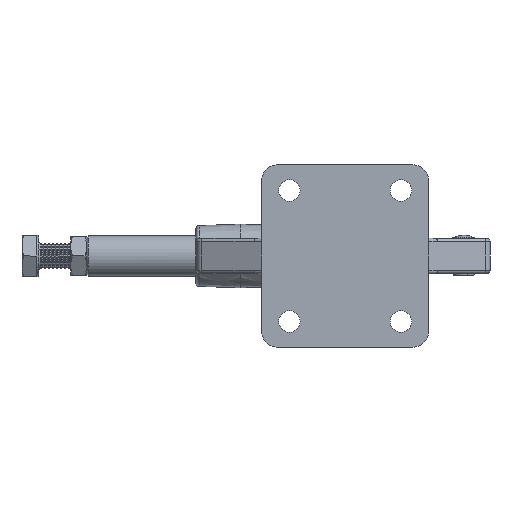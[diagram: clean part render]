
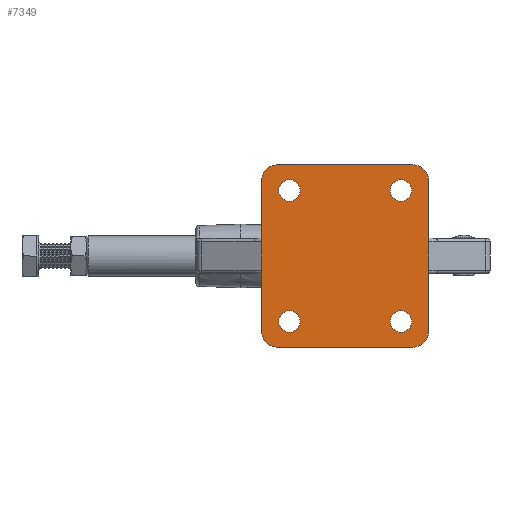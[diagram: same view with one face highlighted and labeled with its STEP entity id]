
A CAD part, front view. The second image highlights one B-rep face of the part: STEP entity #7349.
In plain terms, the highlighted planar face has unit normal (0, -1, 0).
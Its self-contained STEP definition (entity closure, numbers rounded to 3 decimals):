
#103 = CARTESIAN_POINT ( 'NONE',  ( -21.2, 0., 23.6 ) ) ;
#169 = VERTEX_POINT ( 'NONE', #1931 ) ;
#172 = VECTOR ( 'NONE', #12748, 1000. ) ;
#177 = CARTESIAN_POINT ( 'NONE',  ( -26.2, 0., -23.6 ) ) ;
#204 = EDGE_CURVE ( 'NONE', #13492, #169, #2620, .T. ) ;
#313 = DIRECTION ( 'NONE',  ( 0., -1., 0. ) ) ;
#327 = VERTEX_POINT ( 'NONE', #8480 ) ;
#432 = ORIENTED_EDGE ( 'NONE', *, *, #6483, .T. ) ;
#433 = CIRCLE ( 'NONE', #10088, 3.35 ) ;
#436 = AXIS2_PLACEMENT_3D ( 'NONE', #103, #7665, #1195 ) ;
#513 = LINE ( 'NONE', #11619, #172 ) ;
#563 = DIRECTION ( 'NONE',  ( 0., 0., -1. ) ) ;
#729 = FACE_OUTER_BOUND ( 'NONE', #9402, .T. ) ;
#902 = EDGE_CURVE ( 'NONE', #169, #13492, #12440, .T. ) ;
#909 = DIRECTION ( 'NONE',  ( 0., 1., 0. ) ) ;
#1195 = DIRECTION ( 'NONE',  ( 0., 0., -1. ) ) ;
#1232 = LINE ( 'NONE', #9711, #6635 ) ;
#1305 = EDGE_CURVE ( 'NONE', #1662, #2187, #4481, .T. ) ;
#1412 = CARTESIAN_POINT ( 'NONE',  ( 17.5, 0., 20.55 ) ) ;
#1451 = VERTEX_POINT ( 'NONE', #177 ) ;
#1476 = VERTEX_POINT ( 'NONE', #10858 ) ;
#1478 = ORIENTED_EDGE ( 'NONE', *, *, #6307, .T. ) ;
#1527 = CARTESIAN_POINT ( 'NONE',  ( 21.2, 0., 28.6 ) ) ;
#1587 = DIRECTION ( 'NONE',  ( 0., 1., 0. ) ) ;
#1662 = VERTEX_POINT ( 'NONE', #6540 ) ;
#1924 = VERTEX_POINT ( 'NONE', #3003 ) ;
#1931 = CARTESIAN_POINT ( 'NONE',  ( -17.5, 0., -23.9 ) ) ;
#1946 = EDGE_CURVE ( 'NONE', #1662, #12133, #3441, .T. ) ;
#2187 = VERTEX_POINT ( 'NONE', #6921 ) ;
#2595 = EDGE_CURVE ( 'NONE', #327, #12133, #1232, .T. ) ;
#2620 = CIRCLE ( 'NONE', #13246, 3.35 ) ;
#2673 = EDGE_LOOP ( 'NONE', ( #12189, #10298 ) ) ;
#2828 = VERTEX_POINT ( 'NONE', #8777 ) ;
#2947 = EDGE_LOOP ( 'NONE', ( #11931, #10730 ) ) ;
#2959 = AXIS2_PLACEMENT_3D ( 'NONE', #8070, #1587, #9180 ) ;
#3003 = CARTESIAN_POINT ( 'NONE',  ( -17.5, 0., 23.9 ) ) ;
#3010 = DIRECTION ( 'NONE',  ( 0., 1., 0. ) ) ;
#3034 = VERTEX_POINT ( 'NONE', #6234 ) ;
#3041 = CARTESIAN_POINT ( 'NONE',  ( -17.5, 0., -20.55 ) ) ;
#3116 = AXIS2_PLACEMENT_3D ( 'NONE', #5462, #6067, #5307 ) ;
#3267 = FACE_BOUND ( 'NONE', #2947, .T. ) ;
#3281 = DIRECTION ( 'NONE',  ( 0., 0., 1. ) ) ;
#3327 = AXIS2_PLACEMENT_3D ( 'NONE', #6774, #313, #7854 ) ;
#3342 = VERTEX_POINT ( 'NONE', #8143 ) ;
#3371 = ORIENTED_EDGE ( 'NONE', *, *, #9801, .F. ) ;
#3441 = CIRCLE ( 'NONE', #7082, 5. ) ;
#3580 = DIRECTION ( 'NONE',  ( 0., 1., 0. ) ) ;
#3615 = AXIS2_PLACEMENT_3D ( 'NONE', #6208, #13803, #7295 ) ;
#3671 = AXIS2_PLACEMENT_3D ( 'NONE', #13940, #11923, #8599 ) ;
#3739 = CIRCLE ( 'NONE', #7135, 3.35 ) ;
#3819 = CIRCLE ( 'NONE', #7623, 5. ) ;
#3829 = DIRECTION ( 'NONE',  ( 0., 0., -1. ) ) ;
#3931 = CARTESIAN_POINT ( 'NONE',  ( 26.2, 0., -23.6 ) ) ;
#4100 = DIRECTION ( 'NONE',  ( 0., 0., 1. ) ) ;
#4276 = PLANE ( 'NONE',  #3671 ) ;
#4481 = LINE ( 'NONE', #6829, #5144 ) ;
#4605 = LINE ( 'NONE', #12987, #10009 ) ;
#4642 = CIRCLE ( 'NONE', #11358, 3.35 ) ;
#4719 = EDGE_CURVE ( 'NONE', #1924, #8225, #3739, .T. ) ;
#4773 = EDGE_LOOP ( 'NONE', ( #1478, #10422 ) ) ;
#5113 = CIRCLE ( 'NONE', #2959, 3.35 ) ;
#5144 = VECTOR ( 'NONE', #10526, 1000. ) ;
#5307 = DIRECTION ( 'NONE',  ( 0., 0., 1. ) ) ;
#5462 = CARTESIAN_POINT ( 'NONE',  ( -17.5, 0., -20.55 ) ) ;
#5773 = AXIS2_PLACEMENT_3D ( 'NONE', #7382, #909, #8509 ) ;
#6067 = DIRECTION ( 'NONE',  ( 0., 1., 0. ) ) ;
#6141 = FACE_BOUND ( 'NONE', #13007, .T. ) ;
#6208 = CARTESIAN_POINT ( 'NONE',  ( -17.5, 0., 20.55 ) ) ;
#6234 = CARTESIAN_POINT ( 'NONE',  ( 17.5, 0., 17.2 ) ) ;
#6247 = CARTESIAN_POINT ( 'NONE',  ( 17.5, 0., 23.9 ) ) ;
#6307 = EDGE_CURVE ( 'NONE', #3342, #2828, #433, .T. ) ;
#6386 = CIRCLE ( 'NONE', #436, 5. ) ;
#6450 = CARTESIAN_POINT ( 'NONE',  ( 21.2, 0., -23.6 ) ) ;
#6474 = CARTESIAN_POINT ( 'NONE',  ( -17.5, 0., 20.55 ) ) ;
#6476 = CARTESIAN_POINT ( 'NONE',  ( -21.2, 0., -23.6 ) ) ;
#6483 = EDGE_CURVE ( 'NONE', #1451, #2187, #3819, .T. ) ;
#6540 = CARTESIAN_POINT ( 'NONE',  ( 21.2, 0., -28.6 ) ) ;
#6635 = VECTOR ( 'NONE', #563, 1000. ) ;
#6774 = CARTESIAN_POINT ( 'NONE',  ( 21.2, 0., 23.6 ) ) ;
#6828 = ORIENTED_EDGE ( 'NONE', *, *, #902, .T. ) ;
#6829 = CARTESIAN_POINT ( 'NONE',  ( -26.2, 0., -28.6 ) ) ;
#6921 = CARTESIAN_POINT ( 'NONE',  ( -21.2, 0., -28.6 ) ) ;
#7082 = AXIS2_PLACEMENT_3D ( 'NONE', #6450, #8153, #7782 ) ;
#7135 = AXIS2_PLACEMENT_3D ( 'NONE', #6474, #13677, #10935 ) ;
#7290 = VERTEX_POINT ( 'NONE', #8691 ) ;
#7295 = DIRECTION ( 'NONE',  ( 0., 0., -1. ) ) ;
#7349 = ADVANCED_FACE ( 'NONE', ( #9701, #6141, #729, #11896, #3267 ), #4276, .T. ) ;
#7382 = CARTESIAN_POINT ( 'NONE',  ( 17.5, 0., 20.55 ) ) ;
#7607 = VERTEX_POINT ( 'NONE', #6247 ) ;
#7623 = AXIS2_PLACEMENT_3D ( 'NONE', #6476, #9321, #8005 ) ;
#7665 = DIRECTION ( 'NONE',  ( 0., -1., 0. ) ) ;
#7759 = EDGE_CURVE ( 'NONE', #7607, #3034, #4642, .T. ) ;
#7782 = DIRECTION ( 'NONE',  ( 0., 0., -1. ) ) ;
#7786 = ORIENTED_EDGE ( 'NONE', *, *, #2595, .F. ) ;
#7842 = CARTESIAN_POINT ( 'NONE',  ( -17.5, 0., -17.2 ) ) ;
#7854 = DIRECTION ( 'NONE',  ( 0., 0., -1. ) ) ;
#8005 = DIRECTION ( 'NONE',  ( 0., 0., -1. ) ) ;
#8070 = CARTESIAN_POINT ( 'NONE',  ( 17.5, 0., -20.55 ) ) ;
#8133 = ORIENTED_EDGE ( 'NONE', *, *, #11326, .T. ) ;
#8143 = CARTESIAN_POINT ( 'NONE',  ( 17.5, 0., -23.9 ) ) ;
#8153 = DIRECTION ( 'NONE',  ( 0., -1., 0. ) ) ;
#8225 = VERTEX_POINT ( 'NONE', #9911 ) ;
#8299 = ORIENTED_EDGE ( 'NONE', *, *, #1305, .F. ) ;
#8424 = VERTEX_POINT ( 'NONE', #1527 ) ;
#8434 = DIRECTION ( 'NONE',  ( 0., 0., 1. ) ) ;
#8480 = CARTESIAN_POINT ( 'NONE',  ( 26.2, 0., 23.6 ) ) ;
#8509 = DIRECTION ( 'NONE',  ( 0., 0., -1. ) ) ;
#8599 = DIRECTION ( 'NONE',  ( 0., 0., -1. ) ) ;
#8691 = CARTESIAN_POINT ( 'NONE',  ( -26.2, 0., 23.6 ) ) ;
#8777 = CARTESIAN_POINT ( 'NONE',  ( 17.5, 0., -17.2 ) ) ;
#8913 = ORIENTED_EDGE ( 'NONE', *, *, #1946, .T. ) ;
#9019 = EDGE_CURVE ( 'NONE', #2828, #3342, #5113, .T. ) ;
#9109 = ORIENTED_EDGE ( 'NONE', *, *, #10189, .F. ) ;
#9180 = DIRECTION ( 'NONE',  ( 0., 0., 1. ) ) ;
#9321 = DIRECTION ( 'NONE',  ( 0., -1., 0. ) ) ;
#9402 = EDGE_LOOP ( 'NONE', ( #8299, #8913, #7786, #11607, #9109, #8133, #3371, #432 ) ) ;
#9510 = DIRECTION ( 'NONE',  ( 0., 1., 0. ) ) ;
#9559 = ORIENTED_EDGE ( 'NONE', *, *, #204, .T. ) ;
#9701 = FACE_BOUND ( 'NONE', #2673, .T. ) ;
#9711 = CARTESIAN_POINT ( 'NONE',  ( 26.2, 0., 28.6 ) ) ;
#9772 = CIRCLE ( 'NONE', #3327, 5. ) ;
#9801 = EDGE_CURVE ( 'NONE', #1451, #7290, #4605, .T. ) ;
#9911 = CARTESIAN_POINT ( 'NONE',  ( -17.5, 0., 17.2 ) ) ;
#10009 = VECTOR ( 'NONE', #3281, 1000. ) ;
#10088 = AXIS2_PLACEMENT_3D ( 'NONE', #10133, #3580, #4100 ) ;
#10133 = CARTESIAN_POINT ( 'NONE',  ( 17.5, 0., -20.55 ) ) ;
#10189 = EDGE_CURVE ( 'NONE', #1476, #8424, #513, .T. ) ;
#10298 = ORIENTED_EDGE ( 'NONE', *, *, #7759, .T. ) ;
#10304 = CIRCLE ( 'NONE', #5773, 3.35 ) ;
#10422 = ORIENTED_EDGE ( 'NONE', *, *, #9019, .T. ) ;
#10526 = DIRECTION ( 'NONE',  ( -1., 0., 0. ) ) ;
#10642 = CIRCLE ( 'NONE', #3615, 3.35 ) ;
#10730 = ORIENTED_EDGE ( 'NONE', *, *, #4719, .T. ) ;
#10858 = CARTESIAN_POINT ( 'NONE',  ( -21.2, 0., 28.6 ) ) ;
#10935 = DIRECTION ( 'NONE',  ( 0., 0., -1. ) ) ;
#11119 = EDGE_CURVE ( 'NONE', #8225, #1924, #10642, .T. ) ;
#11177 = EDGE_CURVE ( 'NONE', #3034, #7607, #10304, .T. ) ;
#11326 = EDGE_CURVE ( 'NONE', #1476, #7290, #6386, .T. ) ;
#11358 = AXIS2_PLACEMENT_3D ( 'NONE', #1412, #3010, #3829 ) ;
#11607 = ORIENTED_EDGE ( 'NONE', *, *, #12951, .T. ) ;
#11619 = CARTESIAN_POINT ( 'NONE',  ( -26.2, 0., 28.6 ) ) ;
#11896 = FACE_BOUND ( 'NONE', #4773, .T. ) ;
#11923 = DIRECTION ( 'NONE',  ( 0., -1., 0. ) ) ;
#11931 = ORIENTED_EDGE ( 'NONE', *, *, #11119, .T. ) ;
#12133 = VERTEX_POINT ( 'NONE', #3931 ) ;
#12189 = ORIENTED_EDGE ( 'NONE', *, *, #11177, .T. ) ;
#12440 = CIRCLE ( 'NONE', #3116, 3.35 ) ;
#12748 = DIRECTION ( 'NONE',  ( 1., 0., 0. ) ) ;
#12951 = EDGE_CURVE ( 'NONE', #327, #8424, #9772, .T. ) ;
#12987 = CARTESIAN_POINT ( 'NONE',  ( -26.2, 0., 28.6 ) ) ;
#13007 = EDGE_LOOP ( 'NONE', ( #6828, #9559 ) ) ;
#13246 = AXIS2_PLACEMENT_3D ( 'NONE', #3041, #9510, #8434 ) ;
#13492 = VERTEX_POINT ( 'NONE', #7842 ) ;
#13677 = DIRECTION ( 'NONE',  ( 0., 1., 0. ) ) ;
#13803 = DIRECTION ( 'NONE',  ( 0., 1., 0. ) ) ;
#13940 = CARTESIAN_POINT ( 'NONE',  ( 0., 0., 0. ) ) ;
